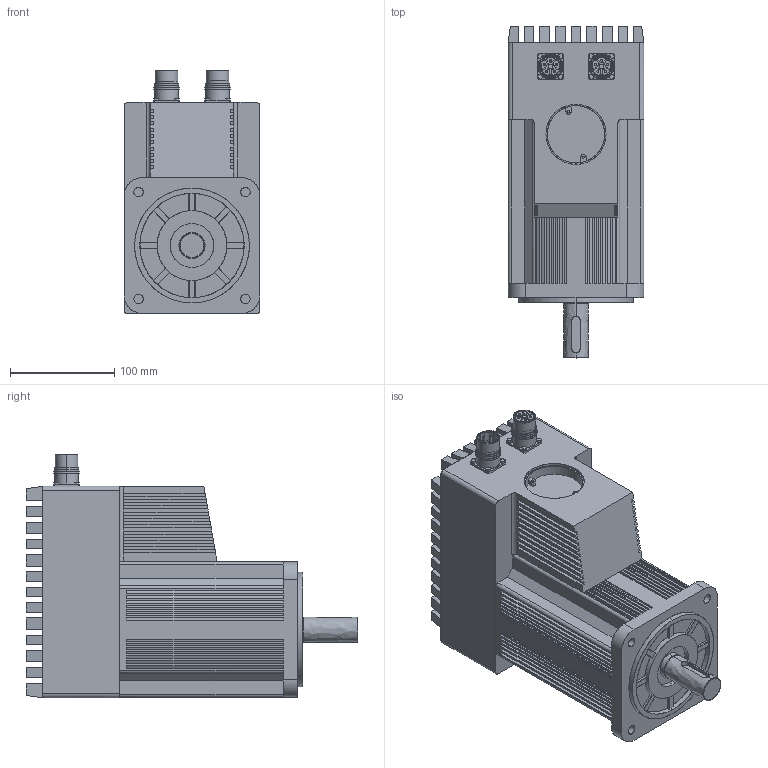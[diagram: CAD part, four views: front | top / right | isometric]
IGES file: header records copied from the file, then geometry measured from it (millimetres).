
Start section: Comment
Global section: file name: MAC3000-D1.igs; native system:  By UGS Corp.; preprocessor: XPlus GENERIC/IGES 3.0; author: Author; organization: Title; date: 20130530.133737; units: millimetre
Bounding box: 130.4 x 318.1 x 233.7 mm (x, y, z)
Surface area: 436035.1 mm2 (no closed solid volume)
Topology: 0 solids, 0 shells, 1304 faces, 6372 edges, 6352 vertices
Faces by surface type: bspline 1304
